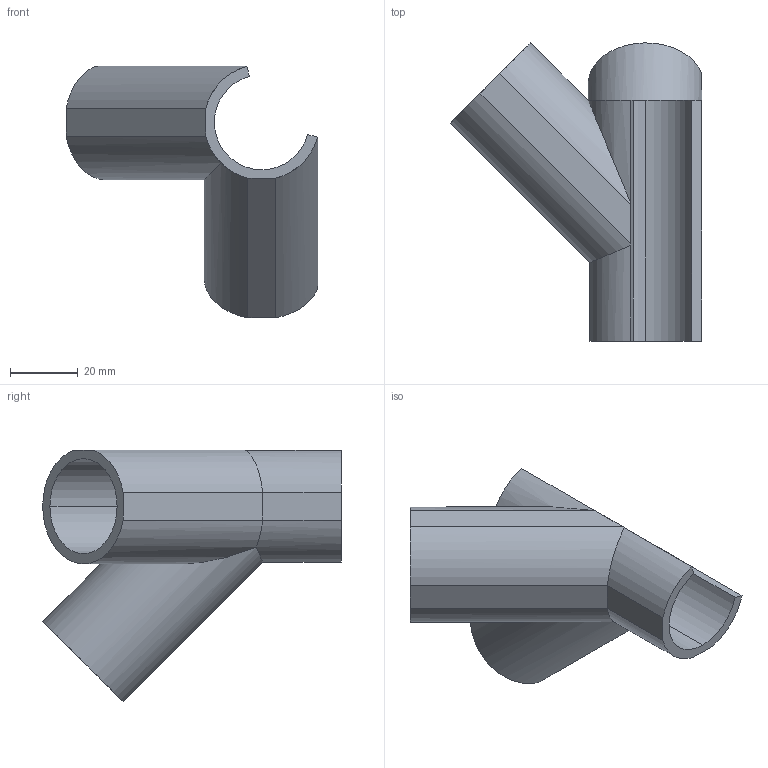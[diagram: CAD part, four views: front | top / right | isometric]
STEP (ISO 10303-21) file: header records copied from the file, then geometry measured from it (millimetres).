
FILE_DESCRIPTION (( 'STEP AP214' ), '1' );
FILE_NAME ('PJ-409.STEP', '2023-09-12T11:12:54', ( 'catia' ), ( 'HP Inc.' ), 'SwSTEP 2.0', 'SolidWorks 2021', '' );
FILE_SCHEMA (( 'AUTOMOTIVE_DESIGN' ));
Length unit declared in the file: millimetre
Products named in the file (1): PJ-409
Bounding box: 74.13 x 87.98 x 74.13 mm (x, y, z)
Volume: 55957.2 mm3; surface area: 24244.6 mm2
Topology: 1 solids, 1 shells, 31 faces, 77 edges, 50 vertices
Faces by surface type: cylinder 17, plane 14
Entity records: 956 total; most frequent: CARTESIAN_POINT 207, ORIENTED_EDGE 154, DIRECTION 148, EDGE_CURVE 77, AXIS2_PLACEMENT_3D 55, VERTEX_POINT 50, VECTOR 38, LINE 38
